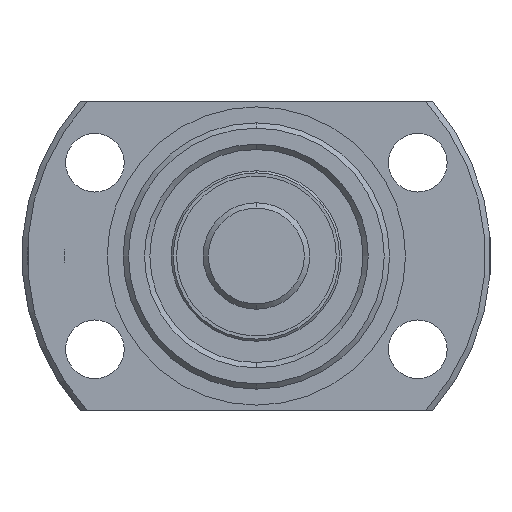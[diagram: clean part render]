
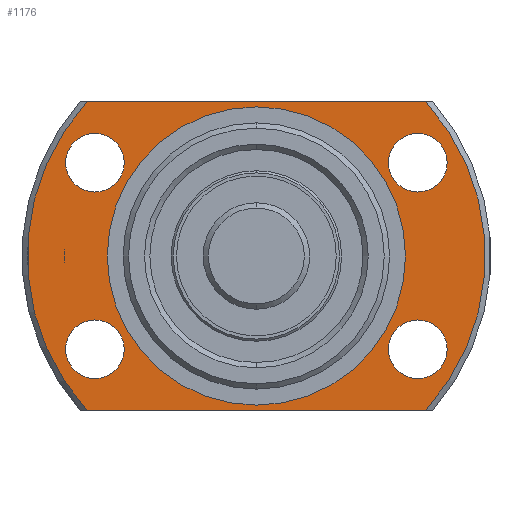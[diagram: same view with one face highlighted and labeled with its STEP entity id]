
A CAD part, left-side view. The second image highlights one B-rep face of the part: STEP entity #1176.
In plain terms, the highlighted planar face has unit normal (-1, 0, 0).
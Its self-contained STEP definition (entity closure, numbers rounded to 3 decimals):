
#430 = DIRECTION ( 'NONE',  ( 0., 0., 1. ) ) ;
#431 = CARTESIAN_POINT ( 'NONE',  ( -10., 21.5, 0. ) ) ;
#433 = PLANE ( 'NONE',  #918 ) ;
#434 = DIRECTION ( 'NONE',  ( -1., 0., 0. ) ) ;
#561 = EDGE_CURVE ( 'NONE', #2526, #2499, #2223, .T. ) ;
#565 = EDGE_CURVE ( 'NONE', #2481, #2531, #2217, .T. ) ;
#653 = EDGE_CURVE ( 'NONE', #2499, #2526, #1430, .T. ) ;
#655 = EDGE_CURVE ( 'NONE', #2422, #2436, #1431, .T. ) ;
#656 = EDGE_CURVE ( 'NONE', #2531, #2481, #1426, .T. ) ;
#664 = EDGE_CURVE ( 'NONE', #2513, #2512, #1417, .T. ) ;
#668 = EDGE_CURVE ( 'NONE', #2455, #2495, #1411, .T. ) ;
#690 = EDGE_CURVE ( 'NONE', #2422, #2523, #1382, .T. ) ;
#733 = AXIS2_PLACEMENT_3D ( 'NONE', #3382, #3466, #3465 ) ;
#735 = AXIS2_PLACEMENT_3D ( 'NONE', #3451, #3450, #3449 ) ;
#764 = AXIS2_PLACEMENT_3D ( 'NONE', #2831, #2830, #2829 ) ;
#815 = AXIS2_PLACEMENT_3D ( 'NONE', #1552, #1551, #1550 ) ;
#816 = AXIS2_PLACEMENT_3D ( 'NONE', #1543, #1540, #1537 ) ;
#817 = AXIS2_PLACEMENT_3D ( 'NONE', #2852, #2835, #2851 ) ;
#823 = AXIS2_PLACEMENT_3D ( 'NONE', #3056, #3058, #3057 ) ;
#918 = AXIS2_PLACEMENT_3D ( 'NONE', #431, #434, #430 ) ;
#958 = AXIS2_PLACEMENT_3D ( 'NONE', #1626, #1627, #1628 ) ;
#963 = AXIS2_PLACEMENT_3D ( 'NONE', #1652, #1653, #1654 ) ;
#975 = AXIS2_PLACEMENT_3D ( 'NONE', #1870, #1871, #1872 ) ;
#976 = AXIS2_PLACEMENT_3D ( 'NONE', #1875, #1876, #1877 ) ;
#977 = AXIS2_PLACEMENT_3D ( 'NONE', #1878, #1879, #1880 ) ;
#1176 = ADVANCED_FACE ( 'NONE', ( #3559, #3558, #3553, #3555, #3552, #3554 ), #433, .T. ) ;
#1233 = EDGE_CURVE ( 'NONE', #2461, #2568, #2775, .T. ) ;
#1243 = EDGE_CURVE ( 'NONE', #2528, #2523, #2797, .T. ) ;
#1380 = VECTOR ( 'NONE', #3290, 1000. ) ;
#1382 = LINE ( 'NONE', #3295, #1380 ) ;
#1411 = CIRCLE ( 'NONE', #823, 2.75 ) ;
#1417 = CIRCLE ( 'NONE', #764, 2.75 ) ;
#1426 = CIRCLE ( 'NONE', #817, 2.75 ) ;
#1430 = CIRCLE ( 'NONE', #815, 2.75 ) ;
#1431 = CIRCLE ( 'NONE', #816, 21.5 ) ;
#1537 = DIRECTION ( 'NONE',  ( 0., 0., -1. ) ) ;
#1540 = DIRECTION ( 'NONE',  ( 1., 0., 0. ) ) ;
#1543 = CARTESIAN_POINT ( 'NONE',  ( -10., 0., 0. ) ) ;
#1550 = DIRECTION ( 'NONE',  ( 0., 0., 1. ) ) ;
#1551 = DIRECTION ( 'NONE',  ( 1., 0., 0. ) ) ;
#1552 = CARTESIAN_POINT ( 'NONE',  ( -10., -15.155, 8.75 ) ) ;
#1626 = CARTESIAN_POINT ( 'NONE',  ( -10., 0., 0. ) ) ;
#1627 = DIRECTION ( 'NONE',  ( 1., 0., 0. ) ) ;
#1628 = DIRECTION ( 'NONE',  ( 0., 0., -1. ) ) ;
#1652 = CARTESIAN_POINT ( 'NONE',  ( -10., 0., 0. ) ) ;
#1653 = DIRECTION ( 'NONE',  ( 1., 0., 0. ) ) ;
#1654 = DIRECTION ( 'NONE',  ( 0., 0., -1. ) ) ;
#1711 = CARTESIAN_POINT ( 'NONE',  ( -10., 15.875, -14.5 ) ) ;
#1722 = CARTESIAN_POINT ( 'NONE',  ( -10., 15.875, 14.5 ) ) ;
#1740 = CARTESIAN_POINT ( 'NONE',  ( -10., 15.155, 11.5 ) ) ;
#1746 = CARTESIAN_POINT ( 'NONE',  ( -10., 0., 14. ) ) ;
#1766 = CARTESIAN_POINT ( 'NONE',  ( -10., -15.155, -6. ) ) ;
#1780 = CARTESIAN_POINT ( 'NONE',  ( -10., 15.155, 6. ) ) ;
#1784 = CARTESIAN_POINT ( 'NONE',  ( -10., -15.155, 6. ) ) ;
#1797 = CARTESIAN_POINT ( 'NONE',  ( -10., 15.155, -11.5 ) ) ;
#1798 = CARTESIAN_POINT ( 'NONE',  ( -10., 15.155, -6. ) ) ;
#1808 = CARTESIAN_POINT ( 'NONE',  ( -10., -15.875, -14.5 ) ) ;
#1811 = CARTESIAN_POINT ( 'NONE',  ( -10., -15.155, 11.5 ) ) ;
#1813 = CARTESIAN_POINT ( 'NONE',  ( -10., -15.875, 14.5 ) ) ;
#1816 = CARTESIAN_POINT ( 'NONE',  ( -10., -15.155, -11.5 ) ) ;
#1853 = CARTESIAN_POINT ( 'NONE',  ( -10., 0., -14. ) ) ;
#1868 = DIRECTION ( 'NONE',  ( 0., 1., 0. ) ) ;
#1869 = CARTESIAN_POINT ( 'NONE',  ( -10., 21.5, 14.5 ) ) ;
#1870 = CARTESIAN_POINT ( 'NONE',  ( -10., 0., 0. ) ) ;
#1871 = DIRECTION ( 'NONE',  ( 1., 0., 0. ) ) ;
#1872 = DIRECTION ( 'NONE',  ( 0., 0., -1. ) ) ;
#1875 = CARTESIAN_POINT ( 'NONE',  ( -10., 15.155, -8.75 ) ) ;
#1876 = DIRECTION ( 'NONE',  ( 1., 0., 0. ) ) ;
#1877 = DIRECTION ( 'NONE',  ( 0., 0., -1. ) ) ;
#1878 = CARTESIAN_POINT ( 'NONE',  ( -10., 15.155, 8.75 ) ) ;
#1879 = DIRECTION ( 'NONE',  ( 1., 0., 0. ) ) ;
#1880 = DIRECTION ( 'NONE',  ( 0., 0.866, -0.5 ) ) ;
#2217 = CIRCLE ( 'NONE', #735, 2.75 ) ;
#2223 = CIRCLE ( 'NONE', #733, 2.75 ) ;
#2307 = ORIENTED_EDGE ( 'NONE', *, *, #690, .T. ) ;
#2308 = ORIENTED_EDGE ( 'NONE', *, *, #655, .F. ) ;
#2309 = ORIENTED_EDGE ( 'NONE', *, *, #3568, .T. ) ;
#2310 = ORIENTED_EDGE ( 'NONE', *, *, #1243, .F. ) ;
#2311 = ORIENTED_EDGE ( 'NONE', *, *, #1233, .T. ) ;
#2312 = ORIENTED_EDGE ( 'NONE', *, *, #3569, .T. ) ;
#2313 = ORIENTED_EDGE ( 'NONE', *, *, #664, .T. ) ;
#2314 = ORIENTED_EDGE ( 'NONE', *, *, #3570, .T. ) ;
#2315 = ORIENTED_EDGE ( 'NONE', *, *, #668, .T. ) ;
#2316 = ORIENTED_EDGE ( 'NONE', *, *, #3571, .T. ) ;
#2317 = ORIENTED_EDGE ( 'NONE', *, *, #561, .T. ) ;
#2318 = ORIENTED_EDGE ( 'NONE', *, *, #653, .T. ) ;
#2319 = ORIENTED_EDGE ( 'NONE', *, *, #565, .T. ) ;
#2320 = ORIENTED_EDGE ( 'NONE', *, *, #656, .T. ) ;
#2422 = VERTEX_POINT ( 'NONE', #1711 ) ;
#2436 = VERTEX_POINT ( 'NONE', #1722 ) ;
#2455 = VERTEX_POINT ( 'NONE', #1740 ) ;
#2461 = VERTEX_POINT ( 'NONE', #1746 ) ;
#2481 = VERTEX_POINT ( 'NONE', #1766 ) ;
#2495 = VERTEX_POINT ( 'NONE', #1780 ) ;
#2499 = VERTEX_POINT ( 'NONE', #1784 ) ;
#2512 = VERTEX_POINT ( 'NONE', #1797 ) ;
#2513 = VERTEX_POINT ( 'NONE', #1798 ) ;
#2523 = VERTEX_POINT ( 'NONE', #1808 ) ;
#2526 = VERTEX_POINT ( 'NONE', #1811 ) ;
#2528 = VERTEX_POINT ( 'NONE', #1813 ) ;
#2531 = VERTEX_POINT ( 'NONE', #1816 ) ;
#2568 = VERTEX_POINT ( 'NONE', #1853 ) ;
#2692 = EDGE_LOOP ( 'NONE', ( #2320, #2319 ) ) ;
#2729 = EDGE_LOOP ( 'NONE', ( #2312, #2311 ) ) ;
#2732 = EDGE_LOOP ( 'NONE', ( #2314, #2313 ) ) ;
#2733 = EDGE_LOOP ( 'NONE', ( #2318, #2317 ) ) ;
#2734 = EDGE_LOOP ( 'NONE', ( #2310, #2309, #2308, #2307 ) ) ;
#2736 = EDGE_LOOP ( 'NONE', ( #2316, #2315 ) ) ;
#2775 = CIRCLE ( 'NONE', #958, 14. ) ;
#2797 = CIRCLE ( 'NONE', #963, 21.5 ) ;
#2829 = DIRECTION ( 'NONE',  ( 0., 0., -1. ) ) ;
#2830 = DIRECTION ( 'NONE',  ( 1., 0., 0. ) ) ;
#2831 = CARTESIAN_POINT ( 'NONE',  ( -10., 15.155, -8.75 ) ) ;
#2835 = DIRECTION ( 'NONE',  ( 1., 0., 0. ) ) ;
#2851 = DIRECTION ( 'NONE',  ( 0., -0.866, 0.5 ) ) ;
#2852 = CARTESIAN_POINT ( 'NONE',  ( -10., -15.155, -8.75 ) ) ;
#3056 = CARTESIAN_POINT ( 'NONE',  ( -10., 15.155, 8.75 ) ) ;
#3057 = DIRECTION ( 'NONE',  ( 0., 0.866, -0.5 ) ) ;
#3058 = DIRECTION ( 'NONE',  ( 1., 0., 0. ) ) ;
#3290 = DIRECTION ( 'NONE',  ( 0., -1., 0. ) ) ;
#3295 = CARTESIAN_POINT ( 'NONE',  ( -10., 21.5, -14.5 ) ) ;
#3382 = CARTESIAN_POINT ( 'NONE',  ( -10., -15.155, 8.75 ) ) ;
#3449 = DIRECTION ( 'NONE',  ( 0., -0.866, 0.5 ) ) ;
#3450 = DIRECTION ( 'NONE',  ( 1., 0., 0. ) ) ;
#3451 = CARTESIAN_POINT ( 'NONE',  ( -10., -15.155, -8.75 ) ) ;
#3465 = DIRECTION ( 'NONE',  ( 0., 0., 1. ) ) ;
#3466 = DIRECTION ( 'NONE',  ( 1., 0., 0. ) ) ;
#3552 = FACE_BOUND ( 'NONE', #2729, .T. ) ;
#3553 = FACE_BOUND ( 'NONE', #2736, .T. ) ;
#3554 = FACE_OUTER_BOUND ( 'NONE', #2734, .T. ) ;
#3555 = FACE_BOUND ( 'NONE', #2732, .T. ) ;
#3558 = FACE_BOUND ( 'NONE', #2733, .T. ) ;
#3559 = FACE_BOUND ( 'NONE', #2692, .T. ) ;
#3568 = EDGE_CURVE ( 'NONE', #2528, #2436, #3647, .T. ) ;
#3569 = EDGE_CURVE ( 'NONE', #2568, #2461, #3657, .T. ) ;
#3570 = EDGE_CURVE ( 'NONE', #2512, #2513, #3654, .T. ) ;
#3571 = EDGE_CURVE ( 'NONE', #2495, #2455, #3655, .T. ) ;
#3647 = LINE ( 'NONE', #1869, #3648 ) ;
#3648 = VECTOR ( 'NONE', #1868, 1000. ) ;
#3654 = CIRCLE ( 'NONE', #976, 2.75 ) ;
#3655 = CIRCLE ( 'NONE', #977, 2.75 ) ;
#3657 = CIRCLE ( 'NONE', #975, 14. ) ;
